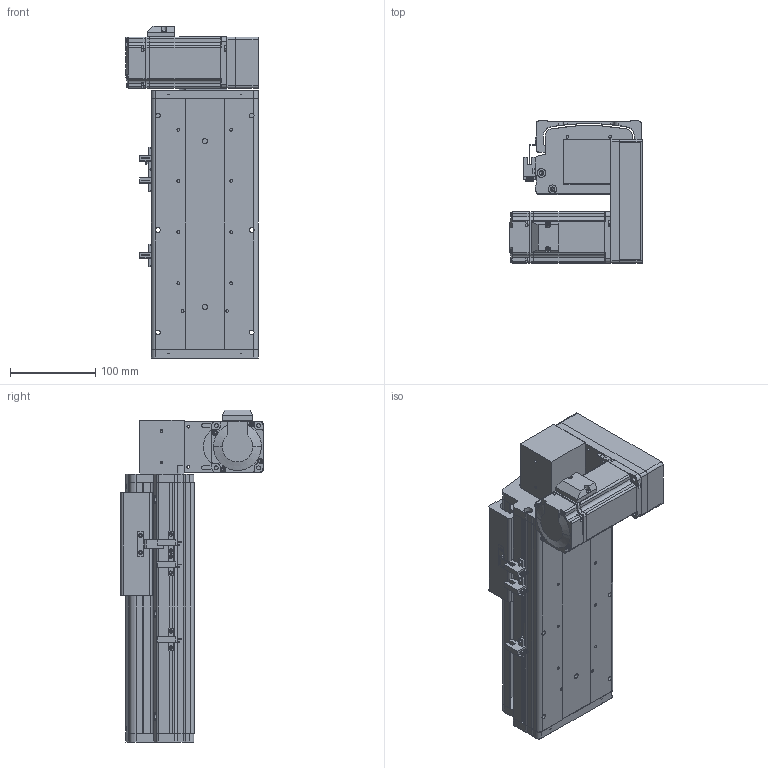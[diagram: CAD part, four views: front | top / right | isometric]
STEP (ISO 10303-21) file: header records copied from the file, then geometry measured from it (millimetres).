
FILE_DESCRIPTION (( 'STEP AP214' ), '1' );
FILE_NAME ('KSD125B-S100-MLD-CM.STEP', '2017-10-21T02:08:04', ( '微软用户' ), ( '微软中国' ), 'SwSTEP 2.0', 'SolidWorks 2014', '' );
FILE_SCHEMA (( 'AUTOMOTIVE_DESIGN' ));
Length unit declared in the file: millimetre
Products named in the file (17): MHMD042G1CA_2_03; KSD125模组同步带-防撞垫2; 覜茼え68遵圉猾敕; U倰嫖萇假蚾璃; U倰嫖萇EEㄜSX672; KSD125模组同步带-防撞垫1; 前端板-125宽模组同步带; 125模组同步带-尾端板1; KSD125模组同步带-滑动座1; KSD125B-S100-MLD-CM; 悵誘欶奻狟殏; 100宽马达安装板连板上下折丝杆同步带; HTPA30S3M150_A_H6_a佪裝蚚; HTPA30S3M150_A_H6_a萇儂蚚; 100宽马达安装板同步带左; KSD125模组100行程同步带-防尘盖; 125模组100行程同步带-底板
Assembly tree (20 placements, depth 2):
  KSD125B-S100-MLD-CM
    KSD125模组同步带-滑动座1
    125模组同步带-尾端板1
    前端板-125宽模组同步带
    KSD125模组同步带-防撞垫1
    U倰嫖萇EEㄜSX672  x3
    U倰嫖萇假蚾璃  x3
    覜茼え68遵圉猾敕
    KSD125模组同步带-防撞垫2
    MHMD042G1CA_2_03
    125模组100行程同步带-底板
    KSD125模组100行程同步带-防尘盖
    100宽马达安装板同步带左
    HTPA30S3M150_A_H6_a萇儂蚚
    HTPA30S3M150_A_H6_a佪裝蚚
    100宽马达安装板连板上下折丝杆同步带
    悵誘欶奻狟殏
Bounding box: 155 x 166.5 x 389 mm (x, y, z)
Volume: 1523567.2 mm3; surface area: 563323 mm2
Topology: 19 solids, 22 shells, 2181 faces, 6307 edges, 4166 vertices
Faces by surface type: cylinder 1340, plane 714, cone 105, bspline 22
Entity records: 76901 total; most frequent: CARTESIAN_POINT 15249, DIRECTION 11972, ORIENTED_EDGE 11134, EDGE_CURVE 5645, AXIS2_PLACEMENT_3D 4605, VERTEX_POINT 3758, LINE 2762, VECTOR 2762
